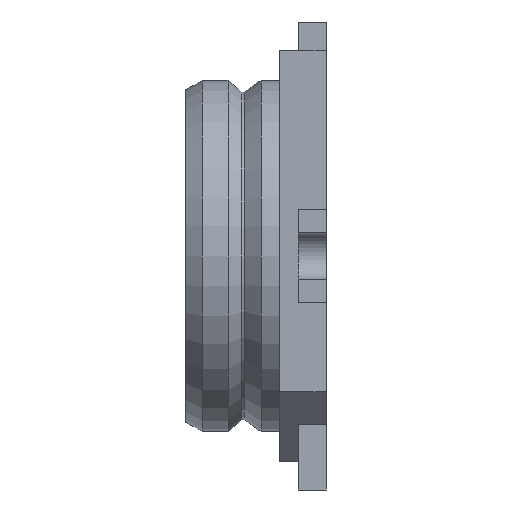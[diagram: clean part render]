
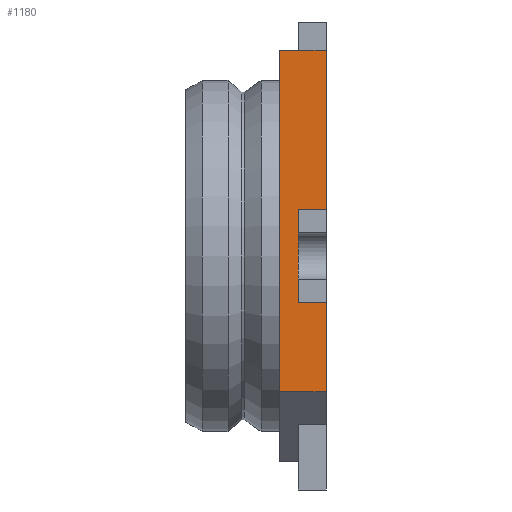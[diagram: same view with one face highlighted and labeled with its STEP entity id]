
A CAD part, left-side view. The second image highlights one B-rep face of the part: STEP entity #1180.
In plain terms, the highlighted planar face has unit normal (-1, 0, 0).
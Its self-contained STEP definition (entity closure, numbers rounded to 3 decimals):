
#8 = DIRECTION ( 'NONE',  ( 0., 0., -1. ) ) ;
#9 = EDGE_CURVE ( 'NONE', #1695, #424, #1168, .T. ) ;
#23 = CARTESIAN_POINT ( 'NONE',  ( -0.84, 0., 0. ) ) ;
#38 = VERTEX_POINT ( 'NONE', #1142 ) ;
#72 = DIRECTION ( 'NONE',  ( 0., 1., 0. ) ) ;
#83 = FACE_OUTER_BOUND ( 'NONE', #1424, .T. ) ;
#198 = CARTESIAN_POINT ( 'NONE',  ( -0.84, 0., 0.88 ) ) ;
#219 = EDGE_CURVE ( 'NONE', #469, #38, #1663, .T. ) ;
#225 = ORIENTED_EDGE ( 'NONE', *, *, #1401, .F. ) ;
#285 = VECTOR ( 'NONE', #1566, 1000. ) ;
#315 = LINE ( 'NONE', #1959, #781 ) ;
#346 = ORIENTED_EDGE ( 'NONE', *, *, #9, .F. ) ;
#351 = LINE ( 'NONE', #23, #722 ) ;
#424 = VERTEX_POINT ( 'NONE', #1918 ) ;
#441 = VERTEX_POINT ( 'NONE', #1992 ) ;
#460 = VECTOR ( 'NONE', #571, 1000. ) ;
#469 = VERTEX_POINT ( 'NONE', #1347 ) ;
#473 = VECTOR ( 'NONE', #1739, 1000. ) ;
#485 = CARTESIAN_POINT ( 'NONE',  ( -0.84, 0.2, 0. ) ) ;
#514 = LINE ( 'NONE', #2034, #473 ) ;
#539 = CARTESIAN_POINT ( 'NONE',  ( -0.84, 0.1, -0.58 ) ) ;
#571 = DIRECTION ( 'NONE',  ( 0., -1., 0. ) ) ;
#634 = ORIENTED_EDGE ( 'NONE', *, *, #928, .T. ) ;
#647 = CARTESIAN_POINT ( 'NONE',  ( -0.84, 0., 0.2 ) ) ;
#716 = ORIENTED_EDGE ( 'NONE', *, *, #1004, .T. ) ;
#722 = VECTOR ( 'NONE', #801, 1000. ) ;
#725 = AXIS2_PLACEMENT_3D ( 'NONE', #198, #1743, #8 ) ;
#747 = LINE ( 'NONE', #1120, #285 ) ;
#781 = VECTOR ( 'NONE', #1810, 1000. ) ;
#801 = DIRECTION ( 'NONE',  ( 0., 0., 1. ) ) ;
#823 = CARTESIAN_POINT ( 'NONE',  ( -0.84, 0., 0.88 ) ) ;
#917 = VERTEX_POINT ( 'NONE', #1053 ) ;
#928 = EDGE_CURVE ( 'NONE', #1761, #1757, #1248, .T. ) ;
#961 = LINE ( 'NONE', #539, #1752 ) ;
#1004 = EDGE_CURVE ( 'NONE', #1757, #424, #315, .T. ) ;
#1053 = CARTESIAN_POINT ( 'NONE',  ( -0.84, 0.12, 0.2 ) ) ;
#1059 = ORIENTED_EDGE ( 'NONE', *, *, #1719, .F. ) ;
#1120 = CARTESIAN_POINT ( 'NONE',  ( -0.84, 0.12, 0.15 ) ) ;
#1142 = CARTESIAN_POINT ( 'NONE',  ( -0.84, 0., -0.2 ) ) ;
#1168 = LINE ( 'NONE', #485, #2002 ) ;
#1180 = ADVANCED_FACE ( 'NONE', ( #83 ), #1247, .F. ) ;
#1191 = EDGE_CURVE ( 'NONE', #441, #38, #351, .T. ) ;
#1247 = PLANE ( 'NONE',  #725 ) ;
#1248 = LINE ( 'NONE', #1308, #1603 ) ;
#1278 = CARTESIAN_POINT ( 'NONE',  ( -0.84, 0.2, -0.58 ) ) ;
#1285 = DIRECTION ( 'NONE',  ( 0., 0., 1. ) ) ;
#1308 = CARTESIAN_POINT ( 'NONE',  ( -0.84, 0., 0. ) ) ;
#1338 = DIRECTION ( 'NONE',  ( 0., 0., 1. ) ) ;
#1347 = CARTESIAN_POINT ( 'NONE',  ( -0.84, 0.12, -0.2 ) ) ;
#1401 = EDGE_CURVE ( 'NONE', #917, #469, #747, .T. ) ;
#1424 = EDGE_LOOP ( 'NONE', ( #1847, #225, #1059, #634, #716, #346, #1994, #1676 ) ) ;
#1512 = CARTESIAN_POINT ( 'NONE',  ( -0.84, 0.1, -0.2 ) ) ;
#1566 = DIRECTION ( 'NONE',  ( 0., 0., -1. ) ) ;
#1603 = VECTOR ( 'NONE', #1338, 1000. ) ;
#1663 = LINE ( 'NONE', #1512, #460 ) ;
#1676 = ORIENTED_EDGE ( 'NONE', *, *, #1191, .T. ) ;
#1695 = VERTEX_POINT ( 'NONE', #1278 ) ;
#1719 = EDGE_CURVE ( 'NONE', #1761, #917, #514, .T. ) ;
#1739 = DIRECTION ( 'NONE',  ( 0., 1., 0. ) ) ;
#1743 = DIRECTION ( 'NONE',  ( 1., 0., 0. ) ) ;
#1752 = VECTOR ( 'NONE', #72, 1000. ) ;
#1757 = VERTEX_POINT ( 'NONE', #823 ) ;
#1761 = VERTEX_POINT ( 'NONE', #647 ) ;
#1810 = DIRECTION ( 'NONE',  ( 0., 1., 0. ) ) ;
#1847 = ORIENTED_EDGE ( 'NONE', *, *, #219, .F. ) ;
#1898 = EDGE_CURVE ( 'NONE', #441, #1695, #961, .T. ) ;
#1918 = CARTESIAN_POINT ( 'NONE',  ( -0.84, 0.2, 0.88 ) ) ;
#1959 = CARTESIAN_POINT ( 'NONE',  ( -0.84, 0.1, 0.88 ) ) ;
#1992 = CARTESIAN_POINT ( 'NONE',  ( -0.84, 0., -0.58 ) ) ;
#1994 = ORIENTED_EDGE ( 'NONE', *, *, #1898, .F. ) ;
#2002 = VECTOR ( 'NONE', #1285, 1000. ) ;
#2034 = CARTESIAN_POINT ( 'NONE',  ( -0.84, 0.1, 0.2 ) ) ;
